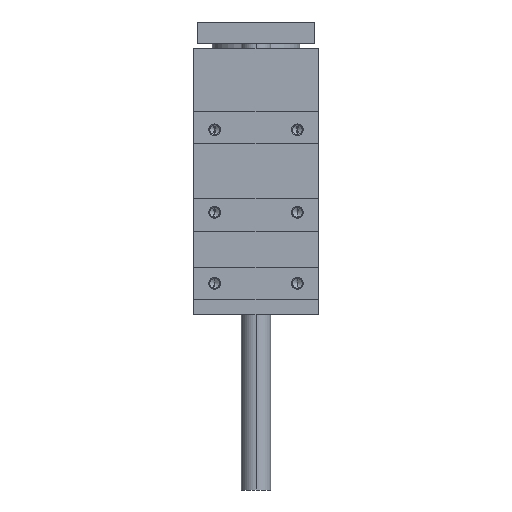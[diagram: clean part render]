
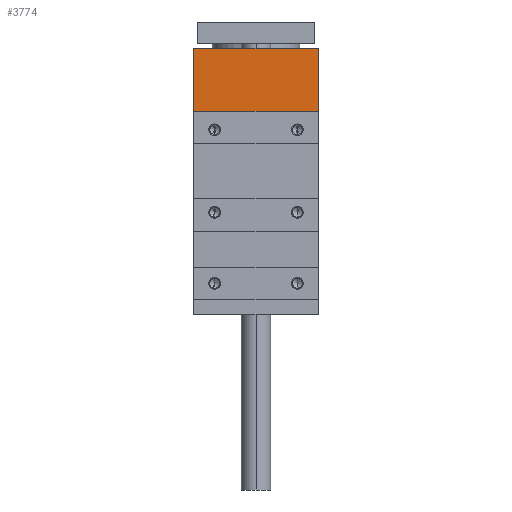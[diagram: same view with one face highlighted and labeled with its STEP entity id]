
A CAD part, left-side view. The second image highlights one B-rep face of the part: STEP entity #3774.
In plain terms, the highlighted planar face has unit normal (-1, 0, 0).
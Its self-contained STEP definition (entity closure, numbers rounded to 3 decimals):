
#118 = CARTESIAN_POINT ( 'NONE',  ( -75.7, 42.5, 71. ) ) ;
#412 = DIRECTION ( 'NONE',  ( 0., -1., 0. ) ) ;
#747 = EDGE_CURVE ( 'NONE', #4999, #4753, #8457, .T. ) ;
#778 = CARTESIAN_POINT ( 'NONE',  ( -75.7, 85., 28. ) ) ;
#835 = FACE_OUTER_BOUND ( 'NONE', #8116, .T. ) ;
#847 = VERTEX_POINT ( 'NONE', #10345 ) ;
#889 = DIRECTION ( 'NONE',  ( 0., 1., 0. ) ) ;
#1302 = EDGE_CURVE ( 'NONE', #4999, #847, #3202, .T. ) ;
#1457 = ORIENTED_EDGE ( 'NONE', *, *, #1302, .T. ) ;
#2002 = CARTESIAN_POINT ( 'NONE',  ( -75.7, 85., 71. ) ) ;
#2528 = DIRECTION ( 'NONE',  ( 0., -1., 0. ) ) ;
#2805 = VECTOR ( 'NONE', #412, 1000. ) ;
#3019 = LINE ( 'NONE', #7932, #6064 ) ;
#3202 = LINE ( 'NONE', #10279, #7361 ) ;
#3700 = EDGE_CURVE ( 'NONE', #847, #5096, #6498, .T. ) ;
#3774 = ADVANCED_FACE ( 'NONE', ( #835 ), #6450, .F. ) ;
#4505 = CARTESIAN_POINT ( 'NONE',  ( -75.7, -42.5, 28. ) ) ;
#4753 = VERTEX_POINT ( 'NONE', #7896 ) ;
#4781 = DIRECTION ( 'NONE',  ( 0., 0., -1. ) ) ;
#4929 = AXIS2_PLACEMENT_3D ( 'NONE', #778, #9706, #889 ) ;
#4999 = VERTEX_POINT ( 'NONE', #118 ) ;
#5096 = VERTEX_POINT ( 'NONE', #4505 ) ;
#5282 = ORIENTED_EDGE ( 'NONE', *, *, #747, .F. ) ;
#6064 = VECTOR ( 'NONE', #8566, 1000. ) ;
#6450 = PLANE ( 'NONE',  #4929 ) ;
#6498 = LINE ( 'NONE', #7287, #8481 ) ;
#7287 = CARTESIAN_POINT ( 'NONE',  ( -75.7, 85., 28. ) ) ;
#7361 = VECTOR ( 'NONE', #4781, 1000. ) ;
#7896 = CARTESIAN_POINT ( 'NONE',  ( -75.7, -42.5, 71. ) ) ;
#7932 = CARTESIAN_POINT ( 'NONE',  ( -75.7, -42.5, 0. ) ) ;
#7985 = EDGE_CURVE ( 'NONE', #4753, #5096, #3019, .T. ) ;
#8116 = EDGE_LOOP ( 'NONE', ( #1457, #9090, #9500, #5282 ) ) ;
#8457 = LINE ( 'NONE', #2002, #2805 ) ;
#8481 = VECTOR ( 'NONE', #2528, 1000. ) ;
#8566 = DIRECTION ( 'NONE',  ( 0., 0., -1. ) ) ;
#9090 = ORIENTED_EDGE ( 'NONE', *, *, #3700, .T. ) ;
#9500 = ORIENTED_EDGE ( 'NONE', *, *, #7985, .F. ) ;
#9706 = DIRECTION ( 'NONE',  ( 1., 0., 0. ) ) ;
#10279 = CARTESIAN_POINT ( 'NONE',  ( -75.7, 42.5, 0. ) ) ;
#10345 = CARTESIAN_POINT ( 'NONE',  ( -75.7, 42.5, 28. ) ) ;
